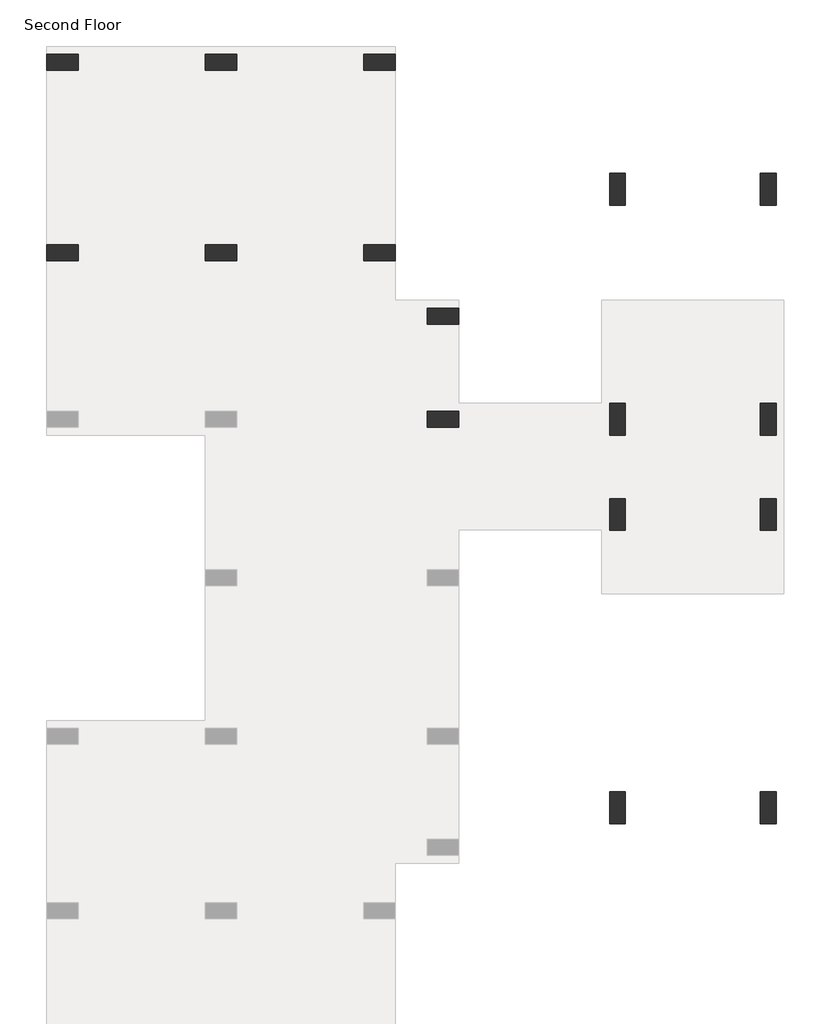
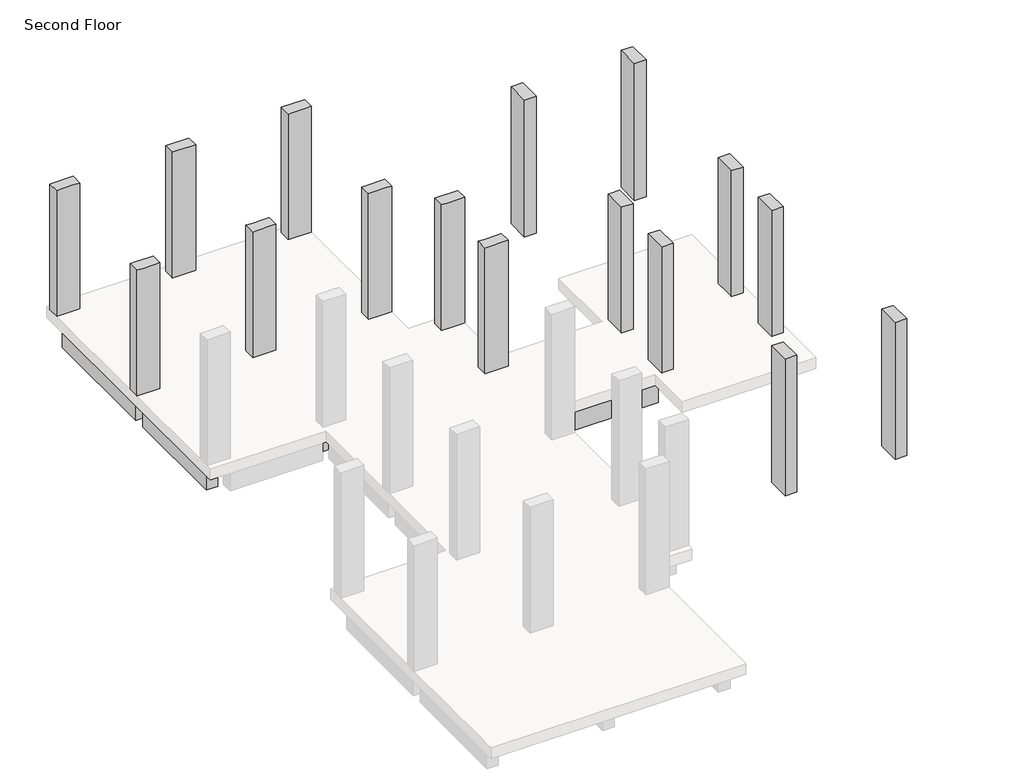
# One storey, part 2 of 2: 25 columns, 18 beams.
"""IFC4 building model written with IfcOpenShell, lengths in millimetres."""

from ifc_helpers import new_model, si_unit, frame, origin, place, context, project, spatial, polyline, outline, extrude, faceted_brep, element, save

model = new_model("IFC4")

# Units and contexts
model_context = context("Model", 3, world=origin())
ifc_project = project(units=[si_unit("LENGTHUNIT", "METRE", prefix="MILLI")], contexts=[model_context])

# Site, building, storey
site = spatial("IfcSite", under=ifc_project)
building = spatial("IfcBuilding", under=site)
storey = spatial("IfcBuildingStorey", under=building, Name="Second Floor", Elevation=3810.0)

# Beams
placement = place(None, origin())
element("IfcBeam", 1, ObjectType="Concrete-Rectangular Beam : 12 x 24", at=placement, inside=storey, context=model_context, shape_type="SweptSolid", body=[
    extrude(outline(polyline([(-15067.9554735, 14342.1867088), (-15067.9554735, 14646.9867088), (-12629.5554735, 14646.9867088), (-12629.5554735, 14342.1867088), (-15067.9554735, 14342.1867088)])), frame((0.0, 0.0, 2895.6), z_axis=(0.0, 0.0, 1.0), x_axis=(1.0, 0.0, 0.0)), (0.0, 0.0, 1.0), 609.6),
])
element("IfcBeam", 2, ObjectType="Concrete-Rectangular Beam : 12 x 24", at=placement, inside=storey, context=model_context, shape_type="SweptSolid", body=[
    extrude(outline(polyline([(-12019.9554735, 14342.1867088), (-12019.9554735, 14646.9867088), (-9581.5554735, 14646.9867088), (-9581.5554735, 14342.1867088), (-12019.9554735, 14342.1867088)])), frame((0.0, 0.0, 2895.6), z_axis=(0.0, 0.0, 1.0), x_axis=(1.0, 0.0, 0.0)), (0.0, 0.0, 1.0), 609.6),
])
element("IfcBeam", 3, ObjectType="Concrete-Rectangular Beam : 12 x 24", at=placement, inside=storey, context=model_context, shape_type="SweptSolid", body=[
    extrude(outline(polyline([(-9429.1554735, 14342.1867088), (-9124.3554735, 14342.1867088), (-9124.3554735, 10989.3867088), (-9429.1554735, 10989.3867088), (-9429.1554735, 14342.1867088)])), frame((0.0, 0.0, 2895.6), z_axis=(0.0, 0.0, 1.0), x_axis=(1.0, 0.0, 0.0)), (0.0, 0.0, 1.0), 609.6),
])
element("IfcBeam", 4, ObjectType="Concrete-Rectangular Beam : 12 x 24", at=placement, inside=storey, context=model_context, shape_type="SweptSolid", body=[
    extrude(outline(polyline([(-7905.1554735, 7788.9867088), (-8209.9554735, 7788.9867088), (-8209.9554735, 9465.3867088), (-7905.1554735, 9465.3867088), (-7905.1554735, 7788.9867088)])), frame((0.0, 0.0, 2895.6), z_axis=(0.0, 0.0, 1.0), x_axis=(1.0, 0.0, 0.0)), (0.0, 0.0, 1.0), 609.6),
])
element("IfcBeam", 5, ObjectType="Concrete-Rectangular Beam : 12 x 24", at=placement, inside=storey, context=model_context, shape_type="Brep", body=[
    faceted_brep([(-9429.1554735, 9770.1867088, 3505.2), (-9429.1554735, 9465.3867088, 3505.2), (-8362.3554735, 9465.3867088, 3505.2), (-8362.3554735, 9770.1867088, 3505.2), (-9124.3554735, 9770.1867088, 3505.2), (-9429.1554735, 9770.1867088, 2895.6), (-8362.3554735, 9770.1867088, 2895.6), (-9124.3554735, 9770.1867088, 2895.6), (-9429.1554735, 9465.3867088, 2895.6), (-8362.3554735, 9465.3867088, 2895.6)], [[[0, 1, 2, 3, 4]], [[5, 0, 4, 3, 6, 7]], [[8, 5, 7, 6, 9]], [[1, 8, 9, 2]], [[3, 2, 9, 6]], [[1, 0, 5, 8]]]),
])
element("IfcBeam", 6, ObjectType="Concrete-Rectangular Beam : 12 x 24", at=placement, inside=storey, context=model_context, shape_type="Brep", body=[
    faceted_brep([(-7905.1554735, 7484.1867088, 3505.2), (-8209.9554735, 7484.1867088, 3505.2), (-8209.9554735, 4740.9867088, 3505.2), (-7905.1554735, 4740.9867088, 3505.2), (-7905.1554735, 5655.3867088, 3505.2), (-7905.1554735, 5960.1867088, 3505.2), (-8209.9554735, 7484.1867088, 2895.6), (-8209.9554735, 4740.9867088, 2895.6), (-7905.1554735, 7484.1867088, 2895.6), (-7905.1554735, 5960.1867088, 2895.6), (-7905.1554735, 5655.3867088, 2895.6), (-7905.1554735, 4740.9867088, 2895.6)], [[[0, 1, 2, 3, 4, 5]], [[1, 6, 7, 2]], [[6, 8, 9, 10, 11, 7]], [[8, 0, 5, 4, 3, 11, 10, 9]], [[6, 1, 0, 8]], [[3, 2, 7, 11]]]),
])
element("IfcBeam", 7, ObjectType="Concrete-Rectangular Beam : 12 x 24", at=placement, inside=storey, context=model_context, shape_type="SweptSolid", body=[
    extrude(outline(polyline([(-15525.1554735, 14342.1867088), (-15220.3554735, 14342.1867088), (-15220.3554735, 10989.3867088), (-15525.1554735, 10989.3867088), (-15525.1554735, 14342.1867088)])), frame((0.0, 0.0, 2895.6), z_axis=(0.0, 0.0, 1.0), x_axis=(1.0, 0.0, 0.0)), (0.0, 0.0, 1.0), 609.6),
])
element("IfcBeam", 8, ObjectType="Concrete-Rectangular Beam : 12 x 24", at=placement, inside=storey, context=model_context, shape_type="SweptSolid", body=[
    extrude(outline(polyline([(-12477.1554735, 14342.1867088), (-12172.3554735, 14342.1867088), (-12172.3554735, 10989.3867088), (-12477.1554735, 10989.3867088), (-12477.1554735, 14342.1867088)])), frame((0.0, 0.0, 2895.6), z_axis=(0.0, 0.0, 1.0), x_axis=(1.0, 0.0, 0.0)), (0.0, 0.0, 1.0), 609.6),
])
element("IfcBeam", 9, ObjectType="Concrete-Rectangular Beam : 12 x 24", at=placement, inside=storey, context=model_context, shape_type="SweptSolid", body=[
    extrude(outline(polyline([(-15067.9554735, 10684.5867088), (-15067.9554735, 10989.3867088), (-12629.5554735, 10989.3867088), (-12629.5554735, 10684.5867088), (-15067.9554735, 10684.5867088)])), frame((0.0, 0.0, 2895.6), z_axis=(0.0, 0.0, 1.0), x_axis=(1.0, 0.0, 0.0)), (0.0, 0.0, 1.0), 609.6),
])
element("IfcBeam", 10, ObjectType="Concrete-Rectangular Beam : 12 x 24", at=placement, inside=storey, context=model_context, shape_type="SweptSolid", body=[
    extrude(outline(polyline([(-12477.1554735, 10836.9867088), (-12172.3554735, 10836.9867088), (-12172.3554735, 7788.9867088), (-12477.1554735, 7788.9867088), (-12477.1554735, 10836.9867088)])), frame((0.0, 0.0, 2895.6), z_axis=(0.0, 0.0, 1.0), x_axis=(1.0, 0.0, 0.0)), (0.0, 0.0, 1.0), 609.6),
])
element("IfcBeam", 11, ObjectType="Concrete-Rectangular Beam : 12 x 24", at=placement, inside=storey, context=model_context, shape_type="SweptSolid", body=[
    extrude(outline(polyline([(-15525.1554735, 10684.5867088), (-15220.3554735, 10684.5867088), (-15220.3554735, 7788.9867088), (-15525.1554735, 7788.9867088), (-15525.1554735, 10684.5867088)])), frame((0.0, 0.0, 2895.6), z_axis=(0.0, 0.0, 1.0), x_axis=(1.0, 0.0, 0.0)), (0.0, 0.0, 1.0), 609.6),
])
element("IfcBeam", 12, ObjectType="Concrete-Rectangular Beam : 12 x 24", at=placement, inside=storey, context=model_context, shape_type="SweptSolid", body=[
    extrude(outline(polyline([(-4552.3554735, 5655.3867088), (-4552.3554735, 5960.1867088), (-1961.5554735, 5960.1867088), (-1961.5554735, 5655.3867088), (-4552.3554735, 5655.3867088)])), frame((0.0, 0.0, 2895.6), z_axis=(0.0, 0.0, 1.0), x_axis=(1.0, 0.0, 0.0)), (0.0, 0.0, 1.0), 609.6),
])
element("IfcBeam", 13, ObjectType="Concrete-Rectangular Beam : 12 x 24", at=placement, inside=storey, context=model_context, shape_type="SweptSolid", body=[
    extrude(outline(polyline([(-4857.1554735, 7788.9867088), (-4857.1554735, 7484.1867088), (-7752.7554735, 7484.1867088), (-7752.7554735, 7788.9867088), (-4857.1554735, 7788.9867088)])), frame((0.0, 0.0, 2895.6), z_axis=(0.0, 0.0, 1.0), x_axis=(1.0, 0.0, 0.0)), (0.0, 0.0, 1.0), 609.6),
])
element("IfcBeam", 14, ObjectType="Concrete-Rectangular Beam : 12 x 24", at=placement, inside=storey, context=model_context, shape_type="SweptSolid", body=[
    extrude(outline(polyline([(-4857.1554735, 5960.1867088), (-4857.1554735, 5655.3867088), (-7905.1554735, 5655.3867088), (-7905.1554735, 5960.1867088), (-4857.1554735, 5960.1867088)])), frame((0.0, 0.0, 2895.6), z_axis=(0.0, 0.0, 1.0), x_axis=(1.0, 0.0, 0.0)), (0.0, 0.0, 1.0), 609.6),
])
element("IfcBeam", 15, ObjectType="Concrete-Rectangular Beam : 12 x 24", at=placement, inside=storey, context=model_context, shape_type="SweptSolid", body=[
    extrude(outline(polyline([(-4552.3554735, 7484.1867088), (-4552.3554735, 7788.9867088), (-1961.5554735, 7788.9867088), (-1961.5554735, 7484.1867088), (-4552.3554735, 7484.1867088)])), frame((0.0, 0.0, 2895.6), z_axis=(0.0, 0.0, 1.0), x_axis=(1.0, 0.0, 0.0)), (0.0, 0.0, 1.0), 609.6),
])
element("IfcBeam", 16, ObjectType="Concrete-Rectangular Beam : 12 x 24", at=placement, inside=storey, context=model_context, shape_type="SweptSolid", body=[
    extrude(outline(polyline([(-12477.1554735, 10684.5867088), (-12172.3554735, 10684.5867088), (-12172.3554735, 7788.9867088), (-12477.1554735, 7788.9867088), (-12477.1554735, 10684.5867088)])), frame((0.0, 0.0, 2895.6), z_axis=(0.0, 0.0, 1.0), x_axis=(1.0, 0.0, 0.0)), (0.0, 0.0, 1.0), 609.6),
])
element("IfcBeam", 17, ObjectType="Concrete-Rectangular Beam : 12 x 24", at=placement, inside=storey, context=model_context, shape_type="SweptSolid", body=[
    extrude(outline(polyline([(-12019.9554735, 10684.5867088), (-12019.9554735, 10989.3867088), (-9581.5554735, 10989.3867088), (-9581.5554735, 10684.5867088), (-12019.9554735, 10684.5867088)])), frame((0.0, 0.0, 2895.6), z_axis=(0.0, 0.0, 1.0), x_axis=(1.0, 0.0, 0.0)), (0.0, 0.0, 1.0), 609.6),
])
element("IfcBeam", 18, ObjectType="Concrete-Rectangular Beam : 12 x 24", at=placement, inside=storey, context=model_context, shape_type="SweptSolid", body=[
    extrude(outline(polyline([(-9124.3554735, 9770.1867088), (-9429.1554735, 9770.1867088), (-9429.1554735, 10684.5867088), (-9124.3554735, 10684.5867088), (-9124.3554735, 9770.1867088)])), frame((0.0, 0.0, 2895.6), z_axis=(0.0, 0.0, 1.0), x_axis=(1.0, 0.0, 0.0)), (0.0, 0.0, 1.0), 609.6),
])

# Columns
element("IfcColumn", 19, ObjectType="Concrete-Rectangular-Column : 12 x 24", at=placement, inside=storey, context=model_context, shape_type="Brep", body=[
    faceted_brep([(-15677.5554735, 14646.9867088, 3810.0), (-15067.9554735, 14646.9867088, 3810.0), (-15067.9554735, 14342.1867088, 3810.0), (-15677.5554735, 14342.1867088, 3810.0), (-15677.5554735, 14646.9867088, 7315.2), (-15067.9554735, 14646.9867088, 7315.2), (-15067.9554735, 14646.9867088, 6705.6), (-15067.9554735, 14342.1867088, 7315.2), (-15067.9554735, 14342.1867088, 6705.6), (-15220.3554735, 14342.1867088, 7315.2), (-15525.1554735, 14342.1867088, 7315.2), (-15677.5554735, 14342.1867088, 7315.2)], [[[0, 1, 2, 3]], [[4, 5, 6, 1, 0]], [[5, 7, 8, 2, 1, 6]], [[7, 9, 10, 11, 3, 2, 8]], [[11, 4, 0, 3]], [[4, 11, 10, 9, 7, 5]]]),
])
element("IfcColumn", 20, ObjectType="Concrete-Rectangular-Column : 12 x 24", at=placement, inside=storey, context=model_context, shape_type="Brep", body=[
    faceted_brep([(-12629.5554735, 14646.9867088, 3810.0), (-12019.9554735, 14646.9867088, 3810.0), (-12019.9554735, 14342.1867088, 3810.0), (-12629.5554735, 14342.1867088, 3810.0), (-12629.5554735, 14646.9867088, 7315.2), (-12019.9554735, 14646.9867088, 7315.2), (-12019.9554735, 14646.9867088, 6705.6), (-12629.5554735, 14646.9867088, 6705.6), (-12019.9554735, 14342.1867088, 7315.2), (-12019.9554735, 14342.1867088, 6705.6), (-12172.3554735, 14342.1867088, 7315.2), (-12477.1554735, 14342.1867088, 7315.2), (-12629.5554735, 14342.1867088, 7315.2), (-12629.5554735, 14342.1867088, 6705.6)], [[[0, 1, 2, 3]], [[4, 5, 6, 1, 0, 7]], [[5, 8, 9, 2, 1, 6]], [[8, 10, 11, 12, 13, 3, 2, 9]], [[12, 4, 7, 0, 3, 13]], [[4, 12, 11, 10, 8, 5]]]),
])
element("IfcColumn", 21, ObjectType="Concrete-Rectangular-Column : 12 x 24", at=placement, inside=storey, context=model_context, shape_type="Brep", body=[
    faceted_brep([(-9581.5554735, 14646.9867088, 3810.0), (-8971.9554735, 14646.9867088, 3810.0), (-8971.9554735, 14342.1867088, 3810.0), (-9581.5554735, 14342.1867088, 3810.0), (-9581.5554735, 14646.9867088, 7315.2), (-8971.9554735, 14646.9867088, 7315.2), (-9581.5554735, 14646.9867088, 6705.6), (-8971.9554735, 14342.1867088, 7315.2), (-9124.3554735, 14342.1867088, 7315.2), (-9429.1554735, 14342.1867088, 7315.2), (-9581.5554735, 14342.1867088, 7315.2), (-9581.5554735, 14342.1867088, 6705.6)], [[[0, 1, 2, 3]], [[4, 5, 1, 0, 6]], [[5, 7, 2, 1]], [[7, 8, 9, 10, 11, 3, 2]], [[10, 4, 6, 0, 3, 11]], [[4, 10, 9, 8, 7, 5]]]),
])
element("IfcColumn", 22, ObjectType="Concrete-Rectangular-Column : 12 x 24", at=placement, inside=storey, context=model_context, shape_type="Brep", body=[
    faceted_brep([(-15677.5554735, 10989.3867088, 3810.0), (-15067.9554735, 10989.3867088, 3810.0), (-15067.9554735, 10684.5867088, 3810.0), (-15677.5554735, 10684.5867088, 3810.0), (-15677.5554735, 10989.3867088, 7315.2), (-15525.1554735, 10989.3867088, 7315.2), (-15220.3554735, 10989.3867088, 7315.2), (-15067.9554735, 10989.3867088, 7315.2), (-15067.9554735, 10989.3867088, 6705.6), (-15067.9554735, 10684.5867088, 7315.2), (-15067.9554735, 10684.5867088, 6705.6), (-15220.3554735, 10684.5867088, 7315.2), (-15525.1554735, 10684.5867088, 7315.2), (-15677.5554735, 10684.5867088, 7315.2)], [[[0, 1, 2, 3]], [[4, 5, 6, 7, 8, 1, 0]], [[7, 9, 10, 2, 1, 8]], [[9, 11, 12, 13, 3, 2, 10]], [[13, 4, 0, 3]], [[4, 13, 12, 11, 9, 7, 6, 5]]]),
])
element("IfcColumn", 23, ObjectType="Concrete-Rectangular-Column : 12 x 24", at=placement, inside=storey, context=model_context, shape_type="Brep", body=[
    faceted_brep([(-12629.5554735, 10989.3867088, 3810.0), (-12019.9554735, 10989.3867088, 3810.0), (-12019.9554735, 10684.5867088, 3810.0), (-12629.5554735, 10684.5867088, 3810.0), (-12629.5554735, 10989.3867088, 7315.2), (-12477.1554735, 10989.3867088, 7315.2), (-12172.3554735, 10989.3867088, 7315.2), (-12019.9554735, 10989.3867088, 7315.2), (-12019.9554735, 10989.3867088, 6705.6), (-12629.5554735, 10989.3867088, 6705.6), (-12019.9554735, 10684.5867088, 7315.2), (-12019.9554735, 10684.5867088, 6705.6), (-12172.3554735, 10684.5867088, 7315.2), (-12477.1554735, 10684.5867088, 7315.2), (-12629.5554735, 10684.5867088, 7315.2), (-12629.5554735, 10684.5867088, 6705.6)], [[[0, 1, 2, 3]], [[4, 5, 6, 7, 8, 1, 0, 9]], [[7, 10, 11, 2, 1, 8]], [[10, 12, 13, 14, 15, 3, 2, 11]], [[14, 4, 9, 0, 3, 15]], [[4, 14, 13, 12, 10, 7, 6, 5]]]),
])
element("IfcColumn", 24, ObjectType="Concrete-Rectangular-Column : 12 x 24", at=placement, inside=storey, context=model_context, shape_type="Brep", body=[
    faceted_brep([(-9581.5554735, 10989.3867088, 3810.0), (-8971.9554735, 10989.3867088, 3810.0), (-8971.9554735, 10684.5867088, 3810.0), (-9581.5554735, 10684.5867088, 3810.0), (-9581.5554735, 10989.3867088, 7315.2), (-9429.1554735, 10989.3867088, 7315.2), (-9124.3554735, 10989.3867088, 7315.2), (-8971.9554735, 10989.3867088, 7315.2), (-9581.5554735, 10989.3867088, 6705.6), (-8971.9554735, 10684.5867088, 7315.2), (-9124.3554735, 10684.5867088, 7315.2), (-9429.1554735, 10684.5867088, 7315.2), (-9581.5554735, 10684.5867088, 7315.2), (-9581.5554735, 10684.5867088, 6705.6)], [[[0, 1, 2, 3]], [[4, 5, 6, 7, 1, 0, 8]], [[7, 9, 2, 1]], [[9, 10, 11, 12, 13, 3, 2]], [[12, 4, 8, 0, 3, 13]], [[4, 12, 11, 10, 9, 7, 6, 5]]]),
])
element("IfcColumn", 25, ObjectType="Concrete-Rectangular-Column : 12 x 24", at=placement, inside=storey, context=model_context, shape_type="Brep", body=[
    faceted_brep([(-8362.3554735, 7788.9867088, 3810.0), (-7752.7554735, 7788.9867088, 3810.0), (-7752.7554735, 7484.1867088, 3810.0), (-8362.3554735, 7484.1867088, 3810.0), (-8362.3554735, 7788.9867088, 7315.2), (-8209.9554735, 7788.9867088, 7315.2), (-7905.1554735, 7788.9867088, 7315.2), (-7752.7554735, 7788.9867088, 7315.2), (-7752.7554735, 7788.9867088, 6705.6), (-8362.3554735, 7788.9867088, 6705.6), (-7752.7554735, 7484.1867088, 7315.2), (-7752.7554735, 7484.1867088, 6705.6), (-7905.1554735, 7484.1867088, 7315.2), (-8209.9554735, 7484.1867088, 7315.2), (-8362.3554735, 7484.1867088, 7315.2), (-8362.3554735, 7484.1867088, 6705.6)], [[[0, 1, 2, 3]], [[4, 5, 6, 7, 8, 1, 0, 9]], [[7, 10, 11, 2, 1, 8]], [[10, 12, 13, 14, 15, 3, 2, 11]], [[14, 4, 9, 0, 3, 15]], [[4, 14, 13, 12, 10, 7, 6, 5]]]),
])
element("IfcColumn", 26, ObjectType="Concrete-Rectangular-Column : 12 x 24", at=placement, inside=storey, context=model_context, shape_type="Brep", body=[
    faceted_brep([(-8362.3554735, 9770.1867088, 3810.0), (-7752.7554735, 9770.1867088, 3810.0), (-7752.7554735, 9465.3867088, 3810.0), (-8362.3554735, 9465.3867088, 3810.0), (-8362.3554735, 9770.1867088, 7315.2), (-7752.7554735, 9770.1867088, 7315.2), (-8362.3554735, 9770.1867088, 6705.6), (-7752.7554735, 9465.3867088, 7315.2), (-7905.1554735, 9465.3867088, 7315.2), (-8209.9554735, 9465.3867088, 7315.2), (-8362.3554735, 9465.3867088, 7315.2), (-8362.3554735, 9465.3867088, 6705.6)], [[[0, 1, 2, 3]], [[4, 5, 1, 0, 6]], [[5, 7, 2, 1]], [[7, 8, 9, 10, 11, 3, 2]], [[10, 4, 6, 0, 3, 11]], [[4, 10, 9, 8, 7, 5]]]),
])
element("IfcColumn", 27, ObjectType="Concrete-Rectangular-Column : 12 x 24", at=placement, inside=storey, context=model_context, shape_type="Brep", body=[
    faceted_brep([(-4552.3554735, 12360.9867088, 3810.0), (-4552.3554735, 11751.3867088, 3810.0), (-4857.1554735, 11751.3867088, 3810.0), (-4857.1554735, 12360.9867088, 3810.0), (-4552.3554735, 12360.9867088, 7620.0), (-4552.3554735, 11751.3867088, 7620.0), (-4552.3554735, 11751.3867088, 7315.2), (-4552.3554735, 11751.3867088, 6705.6), (-4857.1554735, 11751.3867088, 7620.0), (-4857.1554735, 11751.3867088, 7315.2), (-4857.1554735, 11751.3867088, 6705.6), (-4857.1554735, 12360.9867088, 7620.0)], [[[0, 1, 2, 3]], [[4, 5, 6, 7, 1, 0]], [[5, 8, 9, 10, 2, 1, 7, 6]], [[8, 11, 3, 2, 10, 9]], [[11, 4, 0, 3]], [[4, 11, 8, 5]]]),
])
element("IfcColumn", 28, ObjectType="Concrete-Rectangular-Column : 12 x 24", at=placement, inside=storey, context=model_context, shape_type="Brep", body=[
    faceted_brep([(-1656.7554735, 12360.9867088, 3810.0), (-1656.7554735, 11751.3867088, 3810.0), (-1961.5554735, 11751.3867088, 3810.0), (-1961.5554735, 12360.9867088, 3810.0), (-1656.7554735, 12360.9867088, 7620.0), (-1656.7554735, 11751.3867088, 7620.0), (-1656.7554735, 11751.3867088, 7315.2), (-1656.7554735, 11751.3867088, 6705.6), (-1961.5554735, 11751.3867088, 7620.0), (-1961.5554735, 11751.3867088, 7315.2), (-1961.5554735, 11751.3867088, 6705.6), (-1961.5554735, 12360.9867088, 7620.0)], [[[0, 1, 2, 3]], [[4, 5, 6, 7, 1, 0]], [[5, 8, 9, 10, 2, 1, 7, 6]], [[8, 11, 3, 2, 10, 9]], [[11, 4, 0, 3]], [[4, 11, 8, 5]]]),
])
element("IfcColumn", 29, ObjectType="Concrete-Rectangular-Column : 12 x 24", at=placement, inside=storey, context=model_context, shape_type="SweptSolid", body=[
    extrude(outline(polyline([(-4857.1554735, 7331.7867088), (-4857.1554735, 7941.3867088), (-4552.3554735, 7941.3867088), (-4552.3554735, 7331.7867088), (-4857.1554735, 7331.7867088)])), frame((0.0, 0.0, 3810.0), z_axis=(0.0, 0.0, 1.0), x_axis=(1.0, 0.0, 0.0)), (0.0, 0.0, 1.0), 3505.2),
])
element("IfcColumn", 30, ObjectType="Concrete-Rectangular-Column : 12 x 24", at=placement, inside=storey, context=model_context, shape_type="SweptSolid", body=[
    extrude(outline(polyline([(-4552.3554735, 6112.5867088), (-4552.3554735, 5502.9867088), (-4857.1554735, 5502.9867088), (-4857.1554735, 6112.5867088), (-4552.3554735, 6112.5867088)])), frame((0.0, 0.0, 3810.0), z_axis=(0.0, 0.0, 1.0), x_axis=(1.0, 0.0, 0.0)), (0.0, 0.0, 1.0), 3505.2),
])
element("IfcColumn", 31, ObjectType="Concrete-Rectangular-Column : 12 x 24", at=placement, inside=storey, context=model_context, shape_type="SweptSolid", body=[
    extrude(outline(polyline([(-4552.3554735, 473.7867088), (-4552.3554735, -135.8132912), (-4857.1554735, -135.8132912), (-4857.1554735, 473.7867088), (-4552.3554735, 473.7867088)])), frame((0.0, 0.0, 3810.0), z_axis=(0.0, 0.0, 1.0), x_axis=(1.0, 0.0, 0.0)), (0.0, 0.0, 1.0), 3810.0),
])
element("IfcColumn", 32, ObjectType="Concrete-Rectangular-Column : 12 x 24", at=placement, inside=storey, context=model_context, shape_type="SweptSolid", body=[
    extrude(outline(polyline([(-1656.7554735, 473.7867088), (-1656.7554735, -135.8132912), (-1961.5554735, -135.8132912), (-1961.5554735, 473.7867088), (-1656.7554735, 473.7867088)])), frame((0.0, 0.0, 3810.0), z_axis=(0.0, 0.0, 1.0), x_axis=(1.0, 0.0, 0.0)), (0.0, 0.0, 1.0), 3810.0),
])
element("IfcColumn", 33, ObjectType="Concrete-Rectangular-Column : 12 x 24", at=placement, inside=storey, context=model_context, shape_type="SweptSolid", body=[
    extrude(outline(polyline([(-1961.5554735, 7331.7867088), (-1961.5554735, 7941.3867088), (-1656.7554735, 7941.3867088), (-1656.7554735, 7331.7867088), (-1961.5554735, 7331.7867088)])), frame((0.0, 0.0, 3810.0), z_axis=(0.0, 0.0, 1.0), x_axis=(1.0, 0.0, 0.0)), (0.0, 0.0, 1.0), 3505.2),
])
element("IfcColumn", 34, ObjectType="Concrete-Rectangular-Column : 12 x 24", at=placement, inside=storey, context=model_context, shape_type="SweptSolid", body=[
    extrude(outline(polyline([(-1656.7554735, 6112.5867088), (-1656.7554735, 5502.9867088), (-1961.5554735, 5502.9867088), (-1961.5554735, 6112.5867088), (-1656.7554735, 6112.5867088)])), frame((0.0, 0.0, 3810.0), z_axis=(0.0, 0.0, 1.0), x_axis=(1.0, 0.0, 0.0)), (0.0, 0.0, 1.0), 3505.2),
])
element("IfcColumn", 35, ObjectType="Concrete-Rectangular-Column : 12 x 24", at=placement, inside=storey, context=model_context, shape_type="Brep", body=[
    faceted_brep([(-15677.5554735, 14646.9867088, 3810.0), (-15067.9554735, 14646.9867088, 3810.0), (-15067.9554735, 14342.1867088, 3810.0), (-15677.5554735, 14342.1867088, 3810.0), (-15677.5554735, 14646.9867088, 7315.2), (-15067.9554735, 14646.9867088, 7315.2), (-15067.9554735, 14646.9867088, 6705.6), (-15067.9554735, 14342.1867088, 7315.2), (-15067.9554735, 14342.1867088, 6705.6), (-15220.3554735, 14342.1867088, 7315.2), (-15525.1554735, 14342.1867088, 7315.2), (-15677.5554735, 14342.1867088, 7315.2)], [[[0, 1, 2, 3]], [[4, 5, 6, 1, 0]], [[5, 7, 8, 2, 1, 6]], [[7, 9, 10, 11, 3, 2, 8]], [[11, 4, 0, 3]], [[4, 11, 10, 9, 7, 5]]]),
])
element("IfcColumn", 36, ObjectType="Concrete-Rectangular-Column : 12 x 24", at=placement, inside=storey, context=model_context, shape_type="Brep", body=[
    faceted_brep([(-12629.5554735, 14646.9867088, 3810.0), (-12019.9554735, 14646.9867088, 3810.0), (-12019.9554735, 14342.1867088, 3810.0), (-12629.5554735, 14342.1867088, 3810.0), (-12629.5554735, 14646.9867088, 7315.2), (-12019.9554735, 14646.9867088, 7315.2), (-12019.9554735, 14646.9867088, 6705.6), (-12629.5554735, 14646.9867088, 6705.6), (-12019.9554735, 14342.1867088, 7315.2), (-12019.9554735, 14342.1867088, 6705.6), (-12172.3554735, 14342.1867088, 7315.2), (-12477.1554735, 14342.1867088, 7315.2), (-12629.5554735, 14342.1867088, 7315.2), (-12629.5554735, 14342.1867088, 6705.6)], [[[0, 1, 2, 3]], [[4, 5, 6, 1, 0, 7]], [[5, 8, 9, 2, 1, 6]], [[8, 10, 11, 12, 13, 3, 2, 9]], [[12, 4, 7, 0, 3, 13]], [[4, 12, 11, 10, 8, 5]]]),
])
element("IfcColumn", 37, ObjectType="Concrete-Rectangular-Column : 12 x 24", at=placement, inside=storey, context=model_context, shape_type="Brep", body=[
    faceted_brep([(-9581.5554735, 14646.9867088, 3810.0), (-8971.9554735, 14646.9867088, 3810.0), (-8971.9554735, 14342.1867088, 3810.0), (-9581.5554735, 14342.1867088, 3810.0), (-9581.5554735, 14646.9867088, 7315.2), (-8971.9554735, 14646.9867088, 7315.2), (-9581.5554735, 14646.9867088, 6705.6), (-8971.9554735, 14342.1867088, 7315.2), (-9124.3554735, 14342.1867088, 7315.2), (-9429.1554735, 14342.1867088, 7315.2), (-9581.5554735, 14342.1867088, 7315.2), (-9581.5554735, 14342.1867088, 6705.6)], [[[0, 1, 2, 3]], [[4, 5, 1, 0, 6]], [[5, 7, 2, 1]], [[7, 8, 9, 10, 11, 3, 2]], [[10, 4, 6, 0, 3, 11]], [[4, 10, 9, 8, 7, 5]]]),
])
element("IfcColumn", 38, ObjectType="Concrete-Rectangular-Column : 12 x 24", at=placement, inside=storey, context=model_context, shape_type="Brep", body=[
    faceted_brep([(-15677.5554735, 10989.3867088, 3810.0), (-15067.9554735, 10989.3867088, 3810.0), (-15067.9554735, 10684.5867088, 3810.0), (-15677.5554735, 10684.5867088, 3810.0), (-15677.5554735, 10989.3867088, 7315.2), (-15525.1554735, 10989.3867088, 7315.2), (-15220.3554735, 10989.3867088, 7315.2), (-15067.9554735, 10989.3867088, 7315.2), (-15067.9554735, 10989.3867088, 6705.6), (-15067.9554735, 10684.5867088, 7315.2), (-15067.9554735, 10684.5867088, 6705.6), (-15220.3554735, 10684.5867088, 7315.2), (-15525.1554735, 10684.5867088, 7315.2), (-15677.5554735, 10684.5867088, 7315.2)], [[[0, 1, 2, 3]], [[4, 5, 6, 7, 8, 1, 0]], [[7, 9, 10, 2, 1, 8]], [[9, 11, 12, 13, 3, 2, 10]], [[13, 4, 0, 3]], [[4, 13, 12, 11, 9, 7, 6, 5]]]),
])
element("IfcColumn", 39, ObjectType="Concrete-Rectangular-Column : 12 x 24", at=placement, inside=storey, context=model_context, shape_type="Brep", body=[
    faceted_brep([(-12629.5554735, 10989.3867088, 3810.0), (-12019.9554735, 10989.3867088, 3810.0), (-12019.9554735, 10684.5867088, 3810.0), (-12629.5554735, 10684.5867088, 3810.0), (-12629.5554735, 10989.3867088, 7315.2), (-12477.1554735, 10989.3867088, 7315.2), (-12172.3554735, 10989.3867088, 7315.2), (-12019.9554735, 10989.3867088, 7315.2), (-12019.9554735, 10989.3867088, 6705.6), (-12629.5554735, 10989.3867088, 6705.6), (-12019.9554735, 10684.5867088, 7315.2), (-12019.9554735, 10684.5867088, 6705.6), (-12172.3554735, 10684.5867088, 7315.2), (-12477.1554735, 10684.5867088, 7315.2), (-12629.5554735, 10684.5867088, 7315.2), (-12629.5554735, 10684.5867088, 6705.6)], [[[0, 1, 2, 3]], [[4, 5, 6, 7, 8, 1, 0, 9]], [[7, 10, 11, 2, 1, 8]], [[10, 12, 13, 14, 15, 3, 2, 11]], [[14, 4, 9, 0, 3, 15]], [[4, 14, 13, 12, 10, 7, 6, 5]]]),
])
element("IfcColumn", 40, ObjectType="Concrete-Rectangular-Column : 12 x 24", at=placement, inside=storey, context=model_context, shape_type="Brep", body=[
    faceted_brep([(-9581.5554735, 10989.3867088, 3810.0), (-8971.9554735, 10989.3867088, 3810.0), (-8971.9554735, 10684.5867088, 3810.0), (-9581.5554735, 10684.5867088, 3810.0), (-9581.5554735, 10989.3867088, 7315.2), (-9429.1554735, 10989.3867088, 7315.2), (-9124.3554735, 10989.3867088, 7315.2), (-8971.9554735, 10989.3867088, 7315.2), (-9581.5554735, 10989.3867088, 6705.6), (-8971.9554735, 10684.5867088, 7315.2), (-9124.3554735, 10684.5867088, 7315.2), (-9429.1554735, 10684.5867088, 7315.2), (-9581.5554735, 10684.5867088, 7315.2), (-9581.5554735, 10684.5867088, 6705.6)], [[[0, 1, 2, 3]], [[4, 5, 6, 7, 1, 0, 8]], [[7, 9, 2, 1]], [[9, 10, 11, 12, 13, 3, 2]], [[12, 4, 8, 0, 3, 13]], [[4, 12, 11, 10, 9, 7, 6, 5]]]),
])
element("IfcColumn", 41, ObjectType="Concrete-Rectangular-Column : 12 x 24", at=placement, inside=storey, context=model_context, shape_type="Brep", body=[
    faceted_brep([(-8362.3554735, 7788.9867088, 3810.0), (-7752.7554735, 7788.9867088, 3810.0), (-7752.7554735, 7484.1867088, 3810.0), (-8362.3554735, 7484.1867088, 3810.0), (-8362.3554735, 7788.9867088, 7315.2), (-8209.9554735, 7788.9867088, 7315.2), (-7905.1554735, 7788.9867088, 7315.2), (-7752.7554735, 7788.9867088, 7315.2), (-7752.7554735, 7788.9867088, 6705.6), (-8362.3554735, 7788.9867088, 6705.6), (-7752.7554735, 7484.1867088, 7315.2), (-7752.7554735, 7484.1867088, 6705.6), (-7905.1554735, 7484.1867088, 7315.2), (-8209.9554735, 7484.1867088, 7315.2), (-8362.3554735, 7484.1867088, 7315.2), (-8362.3554735, 7484.1867088, 6705.6)], [[[0, 1, 2, 3]], [[4, 5, 6, 7, 8, 1, 0, 9]], [[7, 10, 11, 2, 1, 8]], [[10, 12, 13, 14, 15, 3, 2, 11]], [[14, 4, 9, 0, 3, 15]], [[4, 14, 13, 12, 10, 7, 6, 5]]]),
])
element("IfcColumn", 42, ObjectType="Concrete-Rectangular-Column : 12 x 24", at=placement, inside=storey, context=model_context, shape_type="Brep", body=[
    faceted_brep([(-8362.3554735, 9770.1867088, 3810.0), (-7752.7554735, 9770.1867088, 3810.0), (-7752.7554735, 9465.3867088, 3810.0), (-8362.3554735, 9465.3867088, 3810.0), (-8362.3554735, 9770.1867088, 7315.2), (-7752.7554735, 9770.1867088, 7315.2), (-8362.3554735, 9770.1867088, 6705.6), (-7752.7554735, 9465.3867088, 7315.2), (-7905.1554735, 9465.3867088, 7315.2), (-8209.9554735, 9465.3867088, 7315.2), (-8362.3554735, 9465.3867088, 7315.2), (-8362.3554735, 9465.3867088, 6705.6)], [[[0, 1, 2, 3]], [[4, 5, 1, 0, 6]], [[5, 7, 2, 1]], [[7, 8, 9, 10, 11, 3, 2]], [[10, 4, 6, 0, 3, 11]], [[4, 10, 9, 8, 7, 5]]]),
])
element("IfcColumn", 43, ObjectType="Concrete-Rectangular-Column : 12 x 24", at=placement, inside=storey, context=model_context, shape_type="Brep", body=[
    faceted_brep([(-4552.3554735, 12360.9867088, 3810.0), (-4552.3554735, 11751.3867088, 3810.0), (-4857.1554735, 11751.3867088, 3810.0), (-4857.1554735, 12360.9867088, 3810.0), (-4552.3554735, 12360.9867088, 7620.0), (-4552.3554735, 12208.5867088, 7620.0), (-4552.3554735, 11903.7867088, 7620.0), (-4552.3554735, 11751.3867088, 7620.0), (-4552.3554735, 11751.3867088, 7315.2), (-4552.3554735, 11751.3867088, 6705.6), (-4857.1554735, 11751.3867088, 7620.0), (-4857.1554735, 11751.3867088, 7315.2), (-4857.1554735, 11751.3867088, 6705.6), (-4857.1554735, 12360.9867088, 7620.0)], [[[0, 1, 2, 3]], [[4, 5, 6, 7, 8, 9, 1, 0]], [[7, 10, 11, 12, 2, 1, 9, 8]], [[10, 13, 3, 2, 12, 11]], [[13, 4, 0, 3]], [[4, 13, 10, 7, 6, 5]]]),
])

save(model, "model.ifc")
